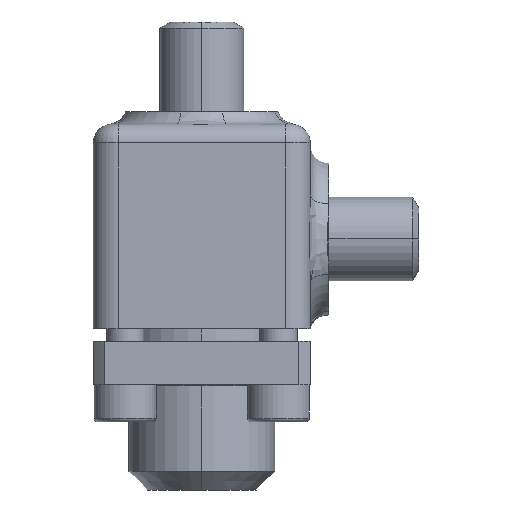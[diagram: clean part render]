
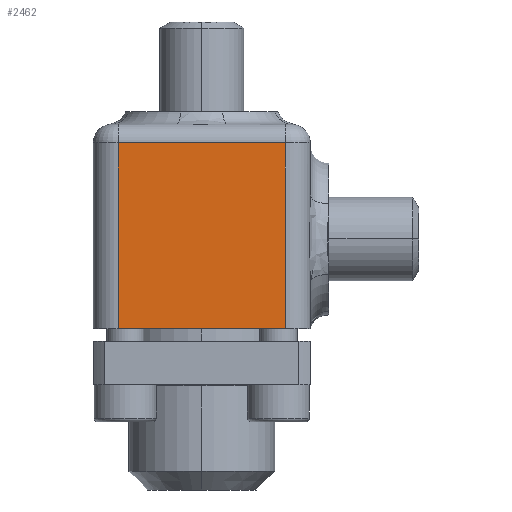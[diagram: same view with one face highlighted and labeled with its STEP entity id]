
A CAD part, left-side view. The second image highlights one B-rep face of the part: STEP entity #2462.
In plain terms, the highlighted planar face has unit normal (-1, 0, 0).
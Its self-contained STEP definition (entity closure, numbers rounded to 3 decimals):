
#772 = ORIENTED_EDGE ( 'NONE', *, *, #2584, .T. ) ;
#1221 = VERTEX_POINT ( 'NONE', #5135 ) ;
#1895 = CARTESIAN_POINT ( 'NONE',  ( -17.5, 13.5, 0. ) ) ;
#2450 = EDGE_LOOP ( 'NONE', ( #5554, #772, #4410, #3150 ) ) ;
#2462 = ADVANCED_FACE ( 'NONE', ( #4499 ), #4500, .F. ) ;
#2572 = VERTEX_POINT ( 'NONE', #7408 ) ;
#2584 = EDGE_CURVE ( 'NONE', #1221, #2572, #8052, .T. ) ;
#2729 = EDGE_CURVE ( 'NONE', #3617, #2775, #3158, .T. ) ;
#2775 = VERTEX_POINT ( 'NONE', #4597 ) ;
#2790 = EDGE_CURVE ( 'NONE', #2775, #1221, #5083, .T. ) ;
#3082 = LINE ( 'NONE', #3083, #3084 ) ;
#3083 = CARTESIAN_POINT ( 'NONE',  ( -17.5, 13.5, 33. ) ) ;
#3084 = VECTOR ( 'NONE', #3085, 1000. ) ;
#3085 = DIRECTION ( 'NONE',  ( 0., 0., -1. ) ) ;
#3150 = ORIENTED_EDGE ( 'NONE', *, *, #2729, .T. ) ;
#3158 = LINE ( 'NONE', #3159, #3160 ) ;
#3159 = CARTESIAN_POINT ( 'NONE',  ( -17.5, 17.5, 0. ) ) ;
#3160 = VECTOR ( 'NONE', #3161, 1000. ) ;
#3161 = DIRECTION ( 'NONE',  ( 0., -1., 0. ) ) ;
#3617 = VERTEX_POINT ( 'NONE', #1895 ) ;
#4098 = EDGE_CURVE ( 'NONE', #2572, #3617, #3082, .T. ) ;
#4410 = ORIENTED_EDGE ( 'NONE', *, *, #4098, .T. ) ;
#4499 = FACE_OUTER_BOUND ( 'NONE', #2450, .T. ) ;
#4500 = PLANE ( 'NONE',  #4501 ) ;
#4501 = AXIS2_PLACEMENT_3D ( 'NONE', #4502, #4503, #4504 ) ;
#4502 = CARTESIAN_POINT ( 'NONE',  ( -17.5, 17.5, 33. ) ) ;
#4503 = DIRECTION ( 'NONE',  ( 1., 0., 0. ) ) ;
#4504 = DIRECTION ( 'NONE',  ( 0., 0., -1. ) ) ;
#4597 = CARTESIAN_POINT ( 'NONE',  ( -17.5, -13.5, 0. ) ) ;
#5083 = LINE ( 'NONE', #5084, #5085 ) ;
#5084 = CARTESIAN_POINT ( 'NONE',  ( -17.5, -13.5, 33. ) ) ;
#5085 = VECTOR ( 'NONE', #5086, 1000. ) ;
#5086 = DIRECTION ( 'NONE',  ( 0., 0., 1. ) ) ;
#5135 = CARTESIAN_POINT ( 'NONE',  ( -17.5, -13.5, 30. ) ) ;
#5554 = ORIENTED_EDGE ( 'NONE', *, *, #2790, .T. ) ;
#7408 = CARTESIAN_POINT ( 'NONE',  ( -17.5, 13.5, 30. ) ) ;
#8052 = LINE ( 'NONE', #8053, #8055 ) ;
#8053 = CARTESIAN_POINT ( 'NONE',  ( -17.5, 13.5, 30. ) ) ;
#8055 = VECTOR ( 'NONE', #8056, 1000. ) ;
#8056 = DIRECTION ( 'NONE',  ( 0., 1., 0. ) ) ;
